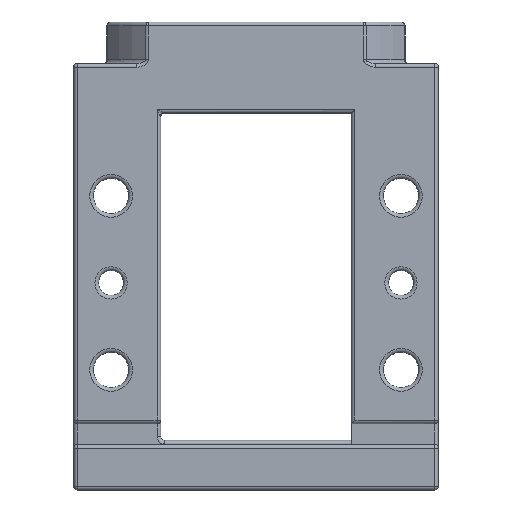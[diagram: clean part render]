
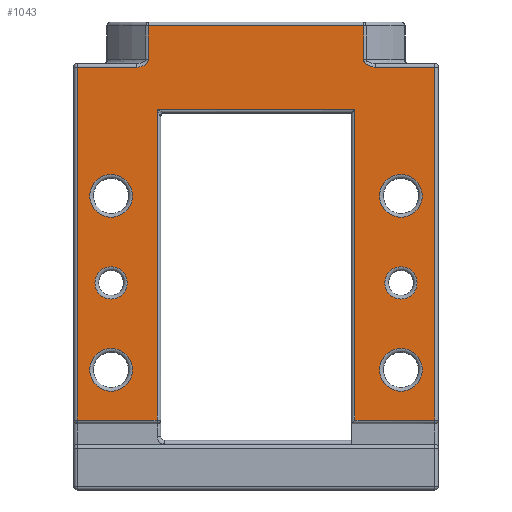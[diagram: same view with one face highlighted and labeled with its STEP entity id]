
A CAD part, front view. The second image highlights one B-rep face of the part: STEP entity #1043.
In plain terms, the highlighted planar face has unit normal (0, -1, 0).
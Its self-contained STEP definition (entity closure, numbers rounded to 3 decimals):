
#733=CIRCLE('',#5977,3.9);
#735=CIRCLE('',#5980,3.9);
#736=CIRCLE('',#5982,5.15);
#738=CIRCLE('',#5985,5.15);
#740=CIRCLE('',#5988,5.15);
#742=CIRCLE('',#5991,5.15);
#1043=ADVANCED_FACE('',(#2179,#2180,#2181,#2182,#2183,#2184,#2185),#1357,
 .F.);
#1357=PLANE('',#6094);
#1509=LINE('',#8972,#1784);
#1510=LINE('',#8990,#1785);
#1511=LINE('',#8992,#1786);
#1512=LINE('',#8994,#1787);
#1513=LINE('',#8996,#1788);
#1514=LINE('',#8998,#1789);
#1515=LINE('',#9000,#1790);
#1516=LINE('',#9002,#1791);
#1517=LINE('',#9004,#1792);
#1518=LINE('',#9006,#1793);
#1519=LINE('',#9021,#1794);
#1520=LINE('',#9023,#1795);
#1784=VECTOR('',#6886,1.);
#1785=VECTOR('',#6887,1.);
#1786=VECTOR('',#6888,1.);
#1787=VECTOR('',#6889,1.);
#1788=VECTOR('',#6890,1.);
#1789=VECTOR('',#6891,1.);
#1790=VECTOR('',#6892,1.);
#1791=VECTOR('',#6893,1.);
#1792=VECTOR('',#6894,1.);
#1793=VECTOR('',#6895,1.);
#1794=VECTOR('',#6896,1.);
#1795=VECTOR('',#6897,1.);
#2179=FACE_BOUND('',#2353,.T.);
#2180=FACE_BOUND('',#2354,.T.);
#2181=FACE_BOUND('',#2355,.T.);
#2182=FACE_BOUND('',#2356,.T.);
#2183=FACE_BOUND('',#2357,.T.);
#2184=FACE_BOUND('',#2358,.T.);
#2185=FACE_BOUND('',#2359,.T.);
#2353=EDGE_LOOP('',(#2979));
#2354=EDGE_LOOP('',(#2980));
#2355=EDGE_LOOP('',(#2981));
#2356=EDGE_LOOP('',(#2982));
#2357=EDGE_LOOP('',(#2983));
#2358=EDGE_LOOP('',(#2984));
#2359=EDGE_LOOP('',(#2985,#2986,#2987,#2988,#2989,#2990,#2991,#2992,#2993,
#2994,#2995,#2996,#2997,#2998));
#2979=ORIENTED_EDGE('',*,*,#4980,.T.);
#2980=ORIENTED_EDGE('',*,*,#4978,.T.);
#2981=ORIENTED_EDGE('',*,*,#4976,.T.);
#2982=ORIENTED_EDGE('',*,*,#4974,.T.);
#2983=ORIENTED_EDGE('',*,*,#4973,.T.);
#2984=ORIENTED_EDGE('',*,*,#4971,.T.);
#2985=ORIENTED_EDGE('',*,*,#5086,.T.);
#2986=ORIENTED_EDGE('',*,*,#5087,.T.);
#2987=ORIENTED_EDGE('',*,*,#5088,.T.);
#2988=ORIENTED_EDGE('',*,*,#5089,.T.);
#2989=ORIENTED_EDGE('',*,*,#5090,.T.);
#2990=ORIENTED_EDGE('',*,*,#5091,.T.);
#2991=ORIENTED_EDGE('',*,*,#5092,.T.);
#2992=ORIENTED_EDGE('',*,*,#5093,.T.);
#2993=ORIENTED_EDGE('',*,*,#5094,.T.);
#2994=ORIENTED_EDGE('',*,*,#5095,.T.);
#2995=ORIENTED_EDGE('',*,*,#5096,.T.);
#2996=ORIENTED_EDGE('',*,*,#5097,.T.);
#2997=ORIENTED_EDGE('',*,*,#5098,.T.);
#2998=ORIENTED_EDGE('',*,*,#5099,.T.);
#4446=VERTEX_POINT('',#8601);
#4448=VERTEX_POINT('',#8606);
#4449=VERTEX_POINT('',#8609);
#4451=VERTEX_POINT('',#8614);
#4453=VERTEX_POINT('',#8619);
#4455=VERTEX_POINT('',#8624);
#4564=VERTEX_POINT('',#8973);
#4565=VERTEX_POINT('',#8974);
#4566=VERTEX_POINT('',#8989);
#4567=VERTEX_POINT('',#8991);
#4568=VERTEX_POINT('',#8993);
#4569=VERTEX_POINT('',#8995);
#4570=VERTEX_POINT('',#8997);
#4571=VERTEX_POINT('',#8999);
#4572=VERTEX_POINT('',#9001);
#4573=VERTEX_POINT('',#9003);
#4574=VERTEX_POINT('',#9005);
#4575=VERTEX_POINT('',#9007);
#4576=VERTEX_POINT('',#9020);
#4577=VERTEX_POINT('',#9022);
#4971=EDGE_CURVE('',#4446,#4446,#733,.T.);
#4973=EDGE_CURVE('',#4448,#4448,#735,.T.);
#4974=EDGE_CURVE('',#4449,#4449,#736,.T.);
#4976=EDGE_CURVE('',#4451,#4451,#738,.T.);
#4978=EDGE_CURVE('',#4453,#4453,#740,.T.);
#4980=EDGE_CURVE('',#4455,#4455,#742,.T.);
#5086=EDGE_CURVE('',#4564,#4565,#1509,.T.);
#5087=EDGE_CURVE('',#4565,#4566,#5747,.T.);
#5088=EDGE_CURVE('',#4566,#4567,#1510,.T.);
#5089=EDGE_CURVE('',#4567,#4568,#1511,.T.);
#5090=EDGE_CURVE('',#4568,#4569,#1512,.T.);
#5091=EDGE_CURVE('',#4569,#4570,#1513,.T.);
#5092=EDGE_CURVE('',#4570,#4571,#1514,.T.);
#5093=EDGE_CURVE('',#4571,#4572,#1515,.T.);
#5094=EDGE_CURVE('',#4572,#4573,#1516,.T.);
#5095=EDGE_CURVE('',#4573,#4574,#1517,.T.);
#5096=EDGE_CURVE('',#4574,#4575,#1518,.T.);
#5097=EDGE_CURVE('',#4575,#4576,#5748,.T.);
#5098=EDGE_CURVE('',#4576,#4577,#1519,.T.);
#5099=EDGE_CURVE('',#4577,#4564,#1520,.T.);
#5747=B_SPLINE_CURVE_WITH_KNOTS('',3,(#8975,#8976,#8977,#8978,#8979,#8980,
#8981,#8982,#8983,#8984,#8985,#8986,#8987,#8988),.UNSPECIFIED.,.F.,.F.,
(4,2,2,2,2,2,4),(0.,0.125,0.25,0.375,
0.5,0.75,1.),.UNSPECIFIED.);
#5748=B_SPLINE_CURVE_WITH_KNOTS('',3,(#9008,#9009,#9010,#9011,#9012,#9013,
#9014,#9015,#9016,#9017,#9018,#9019),.UNSPECIFIED.,.F.,.F.,(4,2,2,2,2,4),
(0.,0.25,0.5,0.75,0.875,
1.),.UNSPECIFIED.);
#5977=AXIS2_PLACEMENT_3D('',#8600,#6610,#6611);
#5980=AXIS2_PLACEMENT_3D('',#8605,#6616,#6617);
#5982=AXIS2_PLACEMENT_3D('',#8608,#6620,#6621);
#5985=AXIS2_PLACEMENT_3D('',#8613,#6626,#6627);
#5988=AXIS2_PLACEMENT_3D('',#8618,#6632,#6633);
#5991=AXIS2_PLACEMENT_3D('',#8623,#6638,#6639);
#6094=AXIS2_PLACEMENT_3D('',#9024,#6898,#6899);
#6610=DIRECTION('',(0.,1.,0.));
#6611=DIRECTION('',(0.,0.,1.));
#6616=DIRECTION('',(0.,1.,0.));
#6617=DIRECTION('',(0.,0.,1.));
#6620=DIRECTION('',(0.,1.,0.));
#6621=DIRECTION('',(0.,0.,1.));
#6626=DIRECTION('',(0.,1.,0.));
#6627=DIRECTION('',(0.,0.,1.));
#6632=DIRECTION('',(0.,1.,0.));
#6633=DIRECTION('',(0.,0.,1.));
#6638=DIRECTION('',(0.,1.,0.));
#6639=DIRECTION('',(0.,0.,1.));
#6886=DIRECTION('',(0.,0.,-1.));
#6887=DIRECTION('',(-1.,0.,0.));
#6888=DIRECTION('',(0.,0.,-1.));
#6889=DIRECTION('',(1.,0.,0.));
#6890=DIRECTION('',(0.,0.,1.));
#6891=DIRECTION('',(1.,0.,0.));
#6892=DIRECTION('',(0.,0.,-1.));
#6893=DIRECTION('',(1.,0.,0.));
#6894=DIRECTION('',(0.,0.,1.));
#6895=DIRECTION('',(-1.,0.,0.));
#6896=DIRECTION('',(0.,0.,1.));
#6897=DIRECTION('',(-1.,0.,0.));
#6898=DIRECTION('',(0.,1.,0.));
#6899=DIRECTION('',(0.,0.,-1.));
#8600=CARTESIAN_POINT('',(-35.,-34.,44.));
#8601=CARTESIAN_POINT('',(-35.,-34.,47.9));
#8605=CARTESIAN_POINT('',(35.,-34.,44.));
#8606=CARTESIAN_POINT('',(35.,-34.,47.9));
#8608=CARTESIAN_POINT('',(-35.,-34.,23.));
#8609=CARTESIAN_POINT('',(-35.,-34.,28.15));
#8613=CARTESIAN_POINT('',(35.,-34.,23.));
#8614=CARTESIAN_POINT('',(35.,-34.,28.15));
#8618=CARTESIAN_POINT('',(35.,-34.,65.));
#8619=CARTESIAN_POINT('',(35.,-34.,70.15));
#8623=CARTESIAN_POINT('',(-35.,-34.,65.));
#8624=CARTESIAN_POINT('',(-35.,-34.,70.15));
#8972=CARTESIAN_POINT('',(-26.015,-34.,97.));
#8973=CARTESIAN_POINT('',(-26.015,-34.,106.1));
#8974=CARTESIAN_POINT('',(-26.015,-34.,97.9));
#8975=CARTESIAN_POINT('',(-26.015,-34.,97.9));
#8976=CARTESIAN_POINT('',(-26.015,-34.,97.745));
#8977=CARTESIAN_POINT('',(-26.047,-34.,97.596));
#8978=CARTESIAN_POINT('',(-26.166,-34.,97.31));
#8979=CARTESIAN_POINT('',(-26.249,-34.,97.181));
#8980=CARTESIAN_POINT('',(-26.448,-34.,96.945));
#8981=CARTESIAN_POINT('',(-26.56,-34.,96.842));
#8982=CARTESIAN_POINT('',(-26.804,-34.,96.658));
#8983=CARTESIAN_POINT('',(-26.936,-34.,96.577));
#8984=CARTESIAN_POINT('',(-27.341,-34.,96.367));
#8985=CARTESIAN_POINT('',(-27.631,-34.,96.267));
#8986=CARTESIAN_POINT('',(-28.228,-34.,96.133));
#8987=CARTESIAN_POINT('',(-28.531,-34.,96.1));
#8988=CARTESIAN_POINT('',(-28.837,-34.,96.1));
#8989=CARTESIAN_POINT('',(-28.837,-34.,96.1));
#8990=CARTESIAN_POINT('',(-44.,-34.,96.1));
#8991=CARTESIAN_POINT('',(-43.1,-34.,96.1));
#8992=CARTESIAN_POINT('',(-43.1,-34.,97.));
#8993=CARTESIAN_POINT('',(-43.1,-34.,10.9));
#8994=CARTESIAN_POINT('',(43.,-34.,10.9));
#8995=CARTESIAN_POINT('',(-23.9,-34.,10.9));
#8996=CARTESIAN_POINT('',(-23.9,-34.,97.));
#8997=CARTESIAN_POINT('',(-23.9,-34.,85.9));
#8998=CARTESIAN_POINT('',(23.,-34.,85.9));
#8999=CARTESIAN_POINT('',(23.9,-34.,85.9));
#9000=CARTESIAN_POINT('',(23.9,-34.,10.));
#9001=CARTESIAN_POINT('',(23.9,-34.,10.9));
#9002=CARTESIAN_POINT('',(43.,-34.,10.9));
#9003=CARTESIAN_POINT('',(43.1,-34.,10.9));
#9004=CARTESIAN_POINT('',(43.1,-34.,97.));
#9005=CARTESIAN_POINT('',(43.1,-34.,96.1));
#9006=CARTESIAN_POINT('',(26.325,-34.,96.1));
#9007=CARTESIAN_POINT('',(28.837,-34.,96.1));
#9008=CARTESIAN_POINT('',(28.837,-34.,96.1));
#9009=CARTESIAN_POINT('',(28.53,-34.,96.1));
#9010=CARTESIAN_POINT('',(28.229,-34.,96.133));
#9011=CARTESIAN_POINT('',(27.638,-34.,96.265));
#9012=CARTESIAN_POINT('',(27.344,-34.,96.366));
#9013=CARTESIAN_POINT('',(26.802,-34.,96.646));
#9014=CARTESIAN_POINT('',(26.548,-34.,96.827));
#9015=CARTESIAN_POINT('',(26.251,-34.,97.178));
#9016=CARTESIAN_POINT('',(26.166,-34.,97.309));
#9017=CARTESIAN_POINT('',(26.049,-34.,97.592));
#9018=CARTESIAN_POINT('',(26.015,-34.,97.745));
#9019=CARTESIAN_POINT('',(26.015,-34.,97.9));
#9020=CARTESIAN_POINT('',(26.015,-34.,97.9));
#9021=CARTESIAN_POINT('',(26.015,-34.,107.));
#9022=CARTESIAN_POINT('',(26.015,-34.,106.1));
#9023=CARTESIAN_POINT('',(-26.325,-34.,106.1));
#9024=CARTESIAN_POINT('',(43.,-34.,97.));
